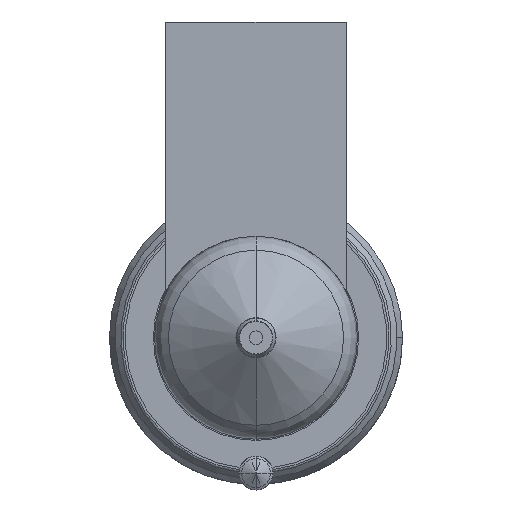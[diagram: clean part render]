
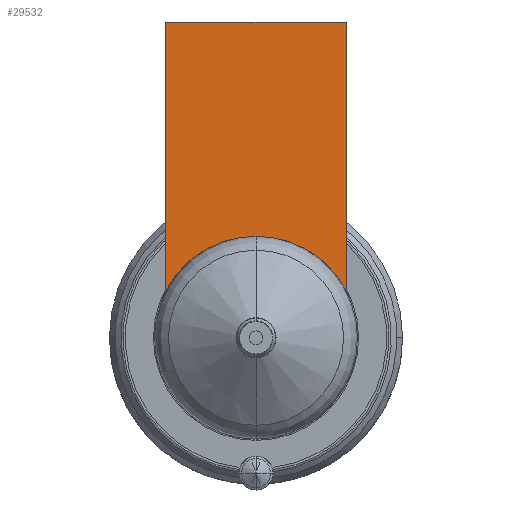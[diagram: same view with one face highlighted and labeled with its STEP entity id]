
A CAD part, front view. The second image highlights one B-rep face of the part: STEP entity #29532.
In plain terms, the highlighted planar face has unit normal (0, -1, 0).
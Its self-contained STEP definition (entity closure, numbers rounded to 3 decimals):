
#28881=DIRECTION('',(1.,0.,0.));
#28882=VECTOR('',#28881,16.);
#28883=CARTESIAN_POINT('',(-8.,-54.,28.));
#28884=LINE('',#28883,#28882);
#28889=CARTESIAN_POINT('',(0.,-54.,0.));
#28890=DIRECTION('',(0.,-1.,0.));
#28891=DIRECTION('',(0.889,0.,0.458));
#28892=AXIS2_PLACEMENT_3D('',#28889,#28890,#28891);
#28897=CARTESIAN_POINT('',(0.,-54.,0.));
#28898=DIRECTION('',(0.,-1.,0.));
#28899=DIRECTION('',(0.,0.,1.));
#28900=AXIS2_PLACEMENT_3D('',#28897,#28898,#28899);
#28926=DIRECTION('',(0.,0.,-1.));
#28927=VECTOR('',#28926,23.877);
#28928=CARTESIAN_POINT('',(-8.,-54.,28.));
#28929=LINE('',#28928,#28927);
#29404=DIRECTION('',(0.,0.,-1.));
#29405=VECTOR('',#29404,23.877);
#29406=CARTESIAN_POINT('',(8.,-54.,28.));
#29407=LINE('',#29406,#29405);
#29457=CARTESIAN_POINT('',(-8.,-54.,28.));
#29458=VERTEX_POINT('',#29457);
#29463=CARTESIAN_POINT('',(8.,-54.,28.));
#29464=VERTEX_POINT('',#29463);
#29467=CARTESIAN_POINT('',(-8.,-54.,4.123));
#29468=VERTEX_POINT('',#29467);
#29471=CARTESIAN_POINT('',(8.,-54.,4.123));
#29472=VERTEX_POINT('',#29471);
#29513=CARTESIAN_POINT('',(0.,-54.,9.));
#29514=VERTEX_POINT('',#29513);
#29515=CARTESIAN_POINT('',(0.,-54.,9.));
#29516=DIRECTION('',(0.,1.,0.));
#29517=DIRECTION('',(0.,0.,-1.));
#29518=AXIS2_PLACEMENT_3D('',#29515,#29516,#29517);
#29519=PLANE('',#29518);
#29521=ORIENTED_EDGE('',*,*,#29520,.F.);
#29523=ORIENTED_EDGE('',*,*,#29522,.T.);
#29525=ORIENTED_EDGE('',*,*,#29524,.T.);
#29527=ORIENTED_EDGE('',*,*,#29526,.T.);
#29529=ORIENTED_EDGE('',*,*,#29528,.T.);
#29530=EDGE_LOOP('',(#29521,#29523,#29525,#29527,#29529));
#29531=FACE_OUTER_BOUND('',#29530,.F.);
#29532=ADVANCED_FACE('',(#29531),#29519,.F.);
#28893=CIRCLE('',#28892,9.);
#28901=CIRCLE('',#28900,9.);
#29520=EDGE_CURVE('',#29458,#29468,#28929,.T.);
#29522=EDGE_CURVE('',#29458,#29464,#28884,.T.);
#29524=EDGE_CURVE('',#29464,#29472,#29407,.T.);
#29526=EDGE_CURVE('',#29472,#29514,#28893,.T.);
#29528=EDGE_CURVE('',#29514,#29468,#28901,.T.);
